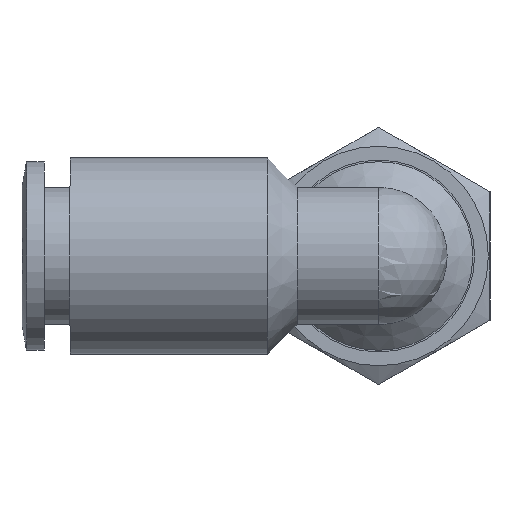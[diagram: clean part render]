
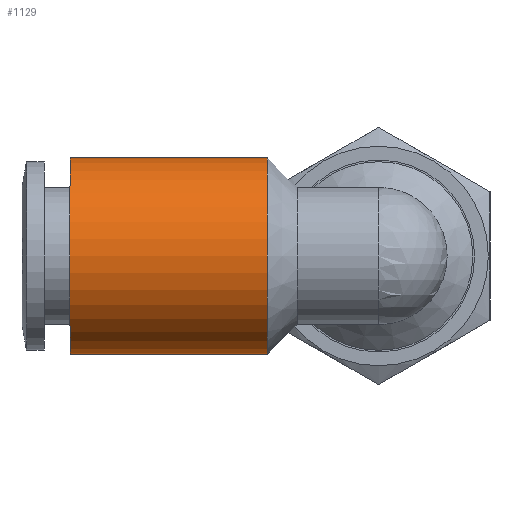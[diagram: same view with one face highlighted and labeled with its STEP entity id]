
A CAD part, left-side view. The second image highlights one B-rep face of the part: STEP entity #1129.
In plain terms, the highlighted cylindrical face has radius 5.75 mm (diameter 11.5 mm), a full revolution.
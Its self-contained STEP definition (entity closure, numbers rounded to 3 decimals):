
#1095=CARTESIAN_POINT('',(-5.75,6.5,0.0));
#1096=VERTEX_POINT('',#1095);
#1097=CARTESIAN_POINT('',(0.0,6.5,0.0));
#1098=DIRECTION('',(0.0,1.0,0.0));
#1099=DIRECTION('',(-1.0,0.0,0.0));
#1100=AXIS2_PLACEMENT_3D('',#1097,#1098,#1099);
#1101=CIRCLE('',#1100,5.75);
#1102=EDGE_CURVE('',#1096,#1096,#1101,.T.);
#1110=CARTESIAN_POINT('',(0.0,12.25,0.0));
#1111=DIRECTION('',(0.0,1.0,0.0));
#1112=DIRECTION('',(-1.0,0.0,0.0));
#1113=AXIS2_PLACEMENT_3D('',#1110,#1111,#1112);
#1114=CYLINDRICAL_SURFACE('',#1113,5.75);
#1115=CARTESIAN_POINT('',(-5.75,18.,0.0));
#1116=VERTEX_POINT('',#1115);
#1117=CARTESIAN_POINT('',(0.0,18.,0.0));
#1118=DIRECTION('',(0.0,1.0,0.0));
#1119=DIRECTION('',(-1.0,0.0,0.0));
#1120=AXIS2_PLACEMENT_3D('',#1117,#1118,#1119);
#1121=CIRCLE('',#1120,5.75);
#1122=EDGE_CURVE('',#1116,#1116,#1121,.T.);
#1123=ORIENTED_EDGE('',*,*,#1122,.F.);
#1124=EDGE_LOOP('',(#1123));
#1125=FACE_OUTER_BOUND('',#1124,.T.);
#1126=ORIENTED_EDGE('',*,*,#1102,.T.);
#1127=EDGE_LOOP('',(#1126));
#1128=FACE_BOUND('',#1127,.T.);
#1129=ADVANCED_FACE('',(#1125,#1128),#1114,.T.);
